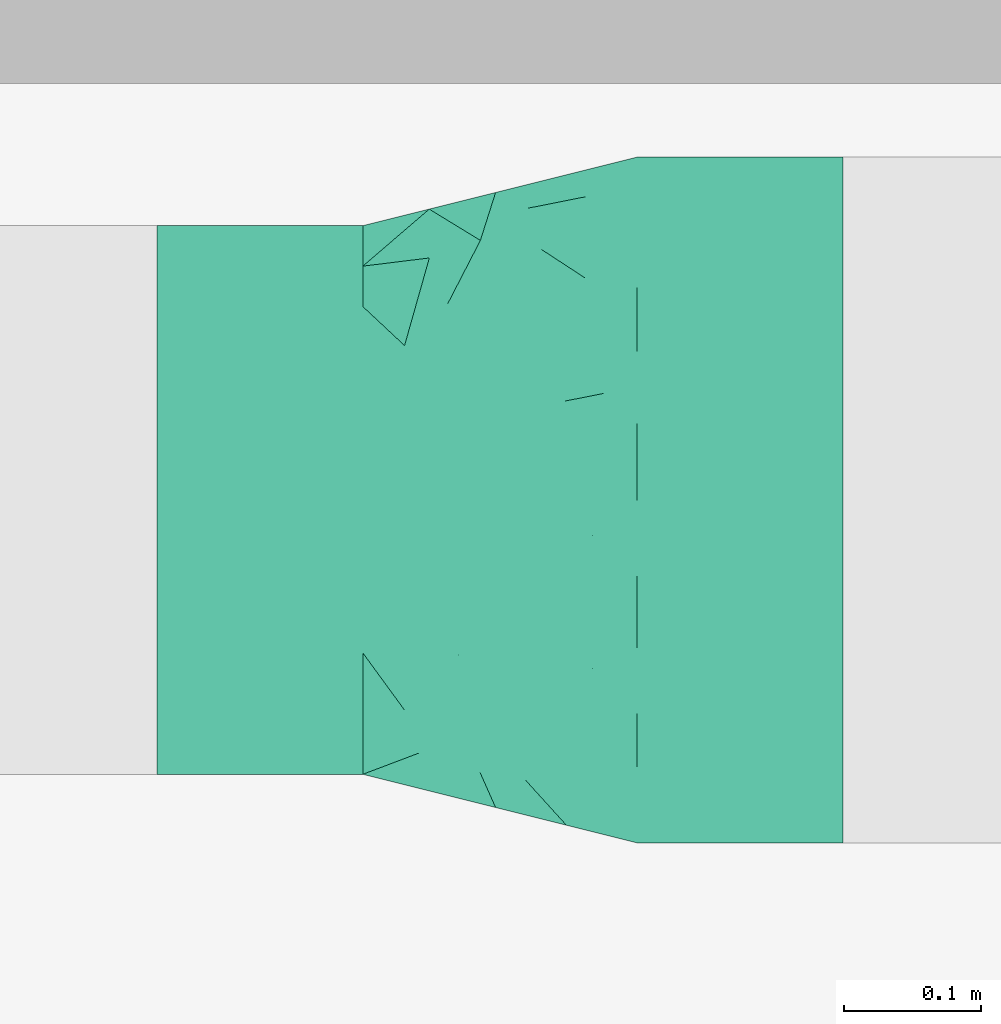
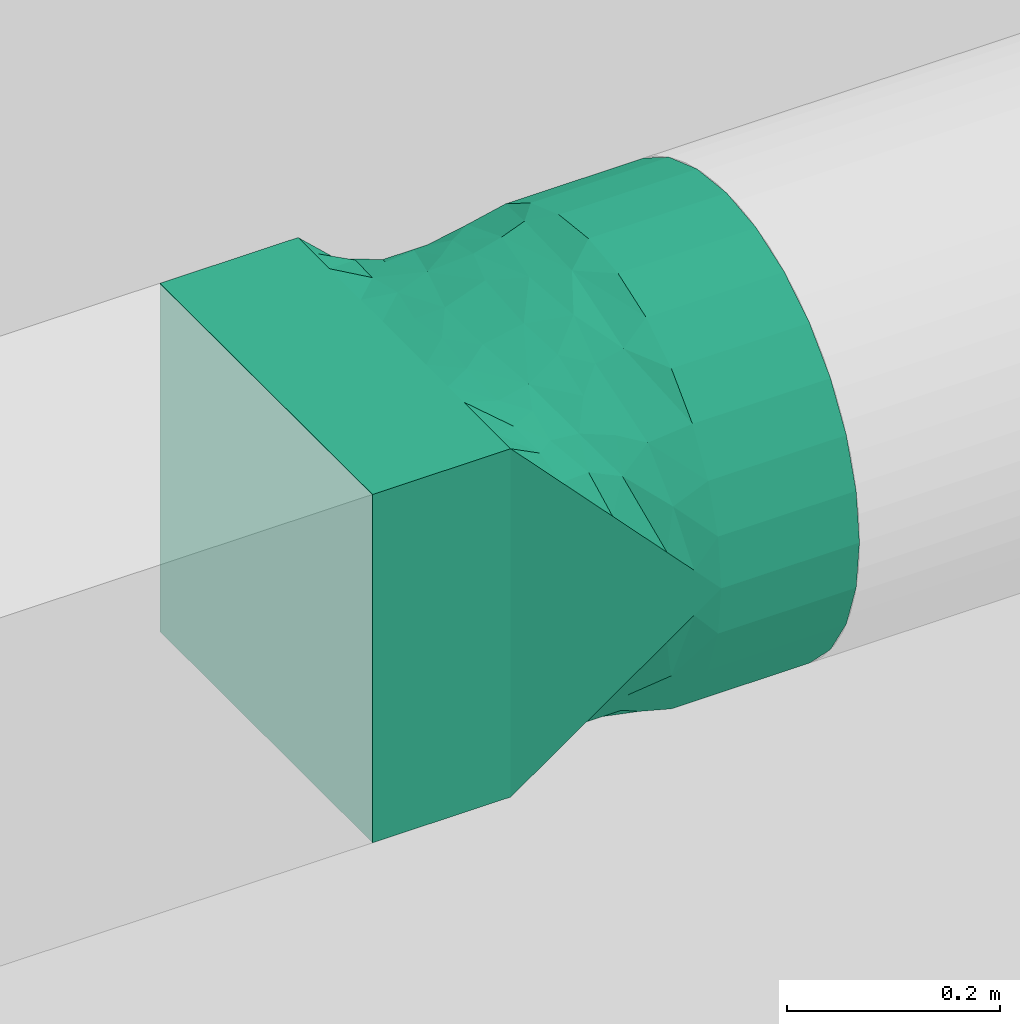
# One storey, part 22 of 31: 1 flow fitting.
"""IFC2X3 building model written with IfcOpenShell, lengths in millimetres."""

from ifc_helpers import new_model, entity, si_unit, converted_unit, derived_unit, direction, frame, origin, place, context, subcontext, project, spatial, faceted_brep, source, transform, mapped, material, material_list, type_object, type_shapes, element, save


model = new_model("IFC2X3")

# Units and contexts
model_context = context("Model", 3, precision=0.01, world=origin(), true_north=direction((6.123031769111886e-17, 1.0)))
body_context = subcontext(model_context, "Body", "Model", "MODEL_VIEW")
ifc_project = project(units=[si_unit("LENGTHUNIT", "METRE", prefix="MILLI"), si_unit("AREAUNIT", "SQUARE_METRE"), si_unit("VOLUMEUNIT", "CUBIC_METRE"), converted_unit("PLANEANGLEUNIT", "DEGREE", entity("IfcRatioMeasure", 0.017453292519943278), si_unit("PLANEANGLEUNIT", "RADIAN"), dimensions=[0, 0, 0, 0, 0, 0, 0]), si_unit("MASSUNIT", "GRAM", prefix="KILO"), derived_unit("MASSDENSITYUNIT", [(si_unit("MASSUNIT", "GRAM", prefix="KILO"), 1), (si_unit("LENGTHUNIT", "METRE"), -3)]), derived_unit("MOMENTOFINERTIAUNIT", [(si_unit("LENGTHUNIT", "METRE"), 4)]), si_unit("TIMEUNIT", "SECOND"), si_unit("FREQUENCYUNIT", "HERTZ"), si_unit("THERMODYNAMICTEMPERATUREUNIT", "DEGREE_CELSIUS"), derived_unit("THERMALTRANSMITTANCEUNIT", [(si_unit("MASSUNIT", "GRAM", prefix="KILO"), 1), (si_unit("THERMODYNAMICTEMPERATUREUNIT", "KELVIN"), -1), (si_unit("TIMEUNIT", "SECOND"), -3)]), derived_unit("VOLUMETRICFLOWRATEUNIT", [(si_unit("LENGTHUNIT", "METRE"), 3), (si_unit("TIMEUNIT", "SECOND"), -1)]), derived_unit("MASSFLOWRATEUNIT", [(si_unit("MASSUNIT", "GRAM", prefix="KILO"), 1), (si_unit("TIMEUNIT", "SECOND"), -1)]), derived_unit("ROTATIONALFREQUENCYUNIT", [(si_unit("TIMEUNIT", "SECOND"), -1)]), si_unit("ELECTRICCURRENTUNIT", "AMPERE"), si_unit("ELECTRICVOLTAGEUNIT", "VOLT"), si_unit("POWERUNIT", "WATT"), si_unit("FORCEUNIT", "NEWTON", prefix="KILO"), si_unit("ILLUMINANCEUNIT", "LUX"), si_unit("LUMINOUSFLUXUNIT", "LUMEN"), si_unit("LUMINOUSINTENSITYUNIT", "CANDELA"), derived_unit("USERDEFINED", [(si_unit("MASSUNIT", "GRAM", prefix="KILO"), -1), (si_unit("LENGTHUNIT", "METRE"), -2), (si_unit("TIMEUNIT", "SECOND"), 3), (si_unit("LUMINOUSFLUXUNIT", "LUMEN"), 1)]), derived_unit("SOUNDPOWERUNIT", [(si_unit("MASSUNIT", "GRAM", prefix="KILO"), 1), (si_unit("LENGTHUNIT", "METRE"), 2), (si_unit("TIMEUNIT", "SECOND"), -3)]), derived_unit("SOUNDPRESSUREUNIT", [(si_unit("MASSUNIT", "GRAM", prefix="KILO"), 1), (si_unit("LENGTHUNIT", "METRE"), -1), (si_unit("TIMEUNIT", "SECOND"), -2)]), derived_unit("LINEARVELOCITYUNIT", [(si_unit("LENGTHUNIT", "METRE"), 1), (si_unit("TIMEUNIT", "SECOND"), -1)]), si_unit("PRESSUREUNIT", "PASCAL"), derived_unit("USERDEFINED", [(si_unit("LENGTHUNIT", "METRE"), -2), (si_unit("MASSUNIT", "GRAM", prefix="KILO"), 1), (si_unit("TIMEUNIT", "SECOND"), -2)]), derived_unit("LINEARFORCEUNIT", [(si_unit("MASSUNIT", "GRAM", prefix="KILO"), 1), (si_unit("LENGTHUNIT", "METRE"), 1), (si_unit("TIMEUNIT", "SECOND"), -2), (si_unit("LENGTHUNIT", "METRE"), -1)]), derived_unit("PLANARFORCEUNIT", [(si_unit("MASSUNIT", "GRAM", prefix="KILO"), 1), (si_unit("LENGTHUNIT", "METRE"), 1), (si_unit("TIMEUNIT", "SECOND"), -2), (si_unit("LENGTHUNIT", "METRE"), -2)])], contexts=[model_context])

# Site, building, storey
site_placement = place(None, origin())
site = spatial("IfcSite", under=ifc_project, at=site_placement, Name="Default", CompositionType="ELEMENT")
building_placement = place(site_placement, origin())
building = spatial("IfcBuilding", under=site, at=building_placement, CompositionType="ELEMENT")
storey_placement = place(building_placement, frame((0.0, 0.0, 3880.0)))
storey = spatial("IfcBuildingStorey", under=building, at=storey_placement, Name="Niveau 1", CompositionType="ELEMENT", Elevation=3880.0)

# Flow fitting
ifc_material = material(Name="<Unnamed>")
ifc_material_list_1 = material_list([ifc_material, ifc_material, ifc_material])
ifc_material_list_2 = material_list([ifc_material, ifc_material, ifc_material])
duct_fitting_type = type_object("IfcDuctFittingType", Name="Gaine RE RU - Joint coulissant:Standard", PredefinedType="NOTDEFINED", material=ifc_material_list_2)
shared_shape = source(origin(), body_context, "Body", "Brep", [
    faceted_brep([(500.0, 108.47093477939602, -225.2422169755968), (500.0, 155.87245046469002, -195.4578706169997), (500.0, 195.45787061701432, -155.87245046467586), (500.0, 225.2422169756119, -108.47093477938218), (500.0, 243.73197804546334, -55.63023348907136), (500.0, 250.0, 0.0), (500.0, 243.73197804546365, 55.630233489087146), (500.0, 225.24221697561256, 108.47093477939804), (500.0, 195.4578706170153, 155.87245046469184), (500.0, 155.87245046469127, 195.45787061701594), (500.0, 108.47093477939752, 225.24221697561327), (500.0, 55.63023348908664, 243.73197804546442), (500.0, 0.0, 250.0), (500.0, -55.63023348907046, 243.73197804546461), (500.0, -108.47093477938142, 225.2422169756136), (500.0, -155.87245046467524, 195.4578706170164), (500.0, -195.45787061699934, 155.87245046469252), (500.0, -225.2422169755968, 108.47093477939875), (500.0, -243.73197804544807, 55.630233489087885), (500.0, -250.0, 0.0), (500.0, -243.73197804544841, -55.630233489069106), (500.0, -225.24221697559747, -108.4709347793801), (500.0, -195.4578706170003, -155.87245046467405), (500.0, -155.87245046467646, -195.45787061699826), (500.0, -108.47093477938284, -225.2422169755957), (500.0, -55.630233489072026, -243.73197804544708), (500.0, 0.0, -250.0), (500.0, 55.630233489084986, -243.73197804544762), (350.0, 55.63023348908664, 243.73197804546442), (350.0, 108.47093477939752, 225.24221697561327), (350.0, 155.87245046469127, 195.45787061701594), (350.0, 195.4578706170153, 155.87245046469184), (350.0, 225.24221697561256, 108.47093477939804), (350.0, 243.73197804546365, 55.630233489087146), (350.0, 250.0, 0.0), (350.0, 243.73197804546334, -55.63023348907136), (350.0, 225.2422169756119, -108.47093477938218), (350.0, 195.45787061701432, -155.87245046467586), (350.0, 155.87245046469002, -195.4578706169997), (350.0, 108.47093477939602, -225.2422169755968), (350.0, 55.630233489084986, -243.73197804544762), (350.0, 0.0, -250.0), (350.0, -55.630233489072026, -243.73197804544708), (350.0, -108.47093477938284, -225.2422169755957), (350.0, -155.87245046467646, -195.45787061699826), (350.0, -195.4578706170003, -155.87245046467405), (350.0, -225.24221697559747, -108.4709347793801), (350.0, -243.73197804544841, -55.630233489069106), (350.0, -250.0, 0.0), (350.0, -243.73197804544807, 55.630233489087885), (350.0, -225.2422169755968, 108.47093477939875), (350.0, -195.45787061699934, 155.87245046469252), (350.0, -155.87245046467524, 195.4578706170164), (350.0, -108.47093477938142, 225.2422169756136), (350.0, -55.63023348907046, 243.73197804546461), (350.0, 0.0, 250.0)], [[[0, 1, 2, 3, 4, 5, 6, 7, 8, 9, 10, 11, 12, 13, 14, 15, 16, 17, 18, 19, 20, 21, 22, 23, 24, 25, 26, 27]], [[28, 29, 30, 31, 32, 33, 34, 35, 36, 37, 38, 39, 40, 41, 42, 43, 44, 45, 46, 47, 48, 49, 50, 51, 52, 53, 54, 55]], [[20, 47, 46, 21]], [[45, 22, 21, 46]], [[43, 42, 25, 24]], [[23, 44, 43, 24]], [[22, 45, 44, 23]], [[25, 42, 41, 26]], [[48, 47, 20, 19]], [[27, 40, 39, 0]], [[38, 1, 0, 39]], [[36, 35, 4, 3]], [[2, 37, 36, 3]], [[1, 38, 37, 2]], [[4, 35, 34, 5]], [[26, 41, 40, 27]], [[33, 6, 5, 34]], [[32, 7, 6, 33]], [[29, 28, 11, 10]], [[31, 8, 7, 32]], [[28, 55, 12, 11]], [[9, 30, 29, 10]], [[9, 8, 31, 30]], [[13, 54, 53, 14]], [[52, 15, 14, 53]], [[50, 49, 18, 17]], [[16, 51, 50, 17]], [[15, 52, 51, 16]], [[18, 49, 48, 19]], [[12, 55, 54, 13]]]),
    faceted_brep([(150.0, -200.0, 200.0), (150.0, -200.0, -200.0), (150.0, 200.0, -200.0), (150.0, 200.0, 200.0), (0.0, -200.0, 200.0), (0.0, 200.0, 200.0), (0.0, 200.0, -200.0), (0.0, -200.0, -200.0)], [[[0, 1, 2, 3]], [[4, 5, 6, 7]], [[1, 0, 4, 7]], [[2, 1, 7, 6]], [[3, 2, 6, 5]], [[0, 3, 5, 4]]]),
    faceted_brep([(350.0, -55.63023348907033, 243.73197804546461), (350.0, -108.4709347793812, 225.24221697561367), (350.0, -155.87245046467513, 195.45787061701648), (350.0, -195.45787061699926, 155.87245046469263), (350.0, -225.24221697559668, 108.47093477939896), (350.0, -243.73197804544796, 55.630233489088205), (350.0, -250.0, 0.0), (350.0, -243.7319780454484, -55.63023348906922), (350.0, -225.24221697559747, -108.4709347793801), (350.0, -195.4578706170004, -155.872450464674), (350.0, -155.87245046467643, -195.45787061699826), (350.0, -108.47093477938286, -225.2422169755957), (350.0, -55.63023348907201, -243.73197804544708), (350.0, 0.0, -250.0), (350.0, 55.63023348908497, -243.73197804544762), (350.0, 108.4709347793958, -225.2422169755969), (350.0, 155.87245046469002, -195.4578706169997), (350.0, 195.45787061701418, -155.87245046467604), (350.0, 225.2422169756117, -108.47093477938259), (350.0, 243.73197804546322, -55.63023348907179), (350.0, 250.0, 0.0), (350.0, 243.73197804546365, 55.63023348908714), (350.0, 225.24221697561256, 108.47093477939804), (350.0, 195.4578706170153, 155.87245046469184), (350.0, 155.87245046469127, 195.45787061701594), (350.0, 108.47093477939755, 225.24221697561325), (350.0, 55.630233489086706, 243.73197804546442), (350.0, 0.0, 250.0), (150.0, 200.0, -200.0), (150.0, 170.51167180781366, -200.0), (150.0, 141.02334361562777, -200.0), (150.0, 111.53501542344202, -200.0), (150.0, 82.0466872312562, -200.0), (150.0, 41.02334361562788, -200.0), (150.0, 0.0, -200.0), (150.0, -41.02334361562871, -200.0), (150.0, -82.04668723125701, -200.0), (150.0, -111.53501542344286, -200.0), (150.0, -141.02334361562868, -200.0), (150.0, -170.51167180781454, -200.0), (150.0, -200.0, -200.0), (150.0, -200.0, 200.0), (150.0, -170.51167180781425, 200.0), (150.0, -141.02334361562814, 200.0), (150.0, -111.53501542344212, 200.0), (150.0, -82.04668723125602, 200.0), (150.0, -41.023343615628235, 200.0), (150.0, 0.0, 200.0), (150.0, 41.023343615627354, 200.0), (150.0, 82.04668723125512, 200.0), (150.0, 111.5350154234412, 200.0), (150.0, 141.02334361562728, 200.0), (150.0, 170.51167180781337, 200.0), (150.0, 200.0, 200.0), (198.39542321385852, -212.09885580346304, -151.60457678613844), (246.79084642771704, -224.1977116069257, -103.2091535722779), (272.59313482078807, -230.64828370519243, -77.40686517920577), (298.39542321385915, -237.09885580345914, -51.604576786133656), (324.19771160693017, -243.54942790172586, -25.80228839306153), (324.1977133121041, -243.54942832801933, 25.802286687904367), (298.39542662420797, -237.09885665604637, 51.60457337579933), (272.59313993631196, -230.64828498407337, 77.4068600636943), (246.79085324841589, -224.1977133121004, 103.20914675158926), (198.39542662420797, -212.09885665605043, 151.60457337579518), (325.32066484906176, -77.66935260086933, -231.53215377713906), (311.7550449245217, -162.09509403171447, -181.21756220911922), (317.2616800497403, 25.74767085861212, -240.5007859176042), (317.2616798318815, 122.92798763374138, -209.76895619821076), (268.7987575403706, 204.4760922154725, -129.53456212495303), (246.79085324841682, 224.19771331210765, -103.20914675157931), (272.59313993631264, 230.64828498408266, -77.40686006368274), (298.3954266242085, 237.0988566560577, -51.60457337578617), (312.08638660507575, -221.02757136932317, -104.830776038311), (286.5427582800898, 122.66894114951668, -203.217756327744), (303.365505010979, 192.30217795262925, -148.62869990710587), (177.63408575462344, 69.08463172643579, -202.95230683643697), (179.7230577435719, 19.232226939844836, -207.1064335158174), (221.86086445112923, -81.23513568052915, -207.65973343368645), (248.13481199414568, -99.31547274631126, -206.6200827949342), (247.50688354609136, -149.85371386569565, -181.13364768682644), (311.2965707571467, 226.12575085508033, -93.07724196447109), (292.7046514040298, 71.1930375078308, -225.6660213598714), (205.2681744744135, 51.56283219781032, -210.26206442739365), (249.08053846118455, 52.831541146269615, -219.83117931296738), (203.164782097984, -15.66481520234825, -212.9722605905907), (282.53465393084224, 5.522138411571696, -233.07561707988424), (209.74849066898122, 170.6177465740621, -170.89182263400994), (180.08898459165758, 152.79063879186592, -186.8947976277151), (190.97393797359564, 184.5111080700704, -171.18609594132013), (235.69769130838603, -189.28706098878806, -151.19430781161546), (270.0596478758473, -212.71054385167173, -116.93051758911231), (198.47841727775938, -176.4928104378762, -171.41656591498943), (265.8121220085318, -70.58577230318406, -219.59356819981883), (249.99999560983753, -21.13838601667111, -224.21402743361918), (324.1977133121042, 243.54942832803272, -25.802286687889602), (273.28145300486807, -123.37885553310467, -200.27383495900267), (297.6562541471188, -72.17621140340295, -226.55659696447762), (280.2284356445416, -182.68762502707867, -156.37867813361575), (275.8137567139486, 179.55352421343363, -159.1687694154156), (241.6561066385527, 169.71979458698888, -166.97598394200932), (235.41797336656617, 198.615855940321, -142.2203114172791), (208.51283333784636, 139.70121236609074, -186.38180095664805), (262.06143462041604, 143.01854330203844, -186.9878092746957), (259.17079967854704, 99.08521746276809, -208.78556737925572), (219.56069425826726, 113.1139813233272, -197.32654278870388), (211.74998516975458, -142.879870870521, -184.78445417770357), (183.34581457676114, 119.31929201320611, -194.66937083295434), (183.6891649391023, -70.73884801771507, -203.59920888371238), (174.01752459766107, -22.864044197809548, -205.6156493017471), (180.4078403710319, -112.61192370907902, -196.28123230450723), (198.3954266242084, 212.09885665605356, -151.60457337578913), (198.3954232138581, 212.09885580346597, 151.60457678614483), (246.79084642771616, 224.1977116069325, 103.20915357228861), (272.59313482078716, 230.64828370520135, 77.4068651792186), (298.3954232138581, 237.09885580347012, 51.604576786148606), (324.1977116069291, 243.54942790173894, 25.802288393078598), (325.32066484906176, 77.66935260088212, 231.53215377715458), (311.7550449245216, 162.09509403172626, 181.21756220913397), (317.2616800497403, -25.747670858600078, 240.50078591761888), (317.2616798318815, -122.92798763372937, 209.768956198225), (268.79875754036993, -204.47609221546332, 129.5345621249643), (312.0863866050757, 221.02757136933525, 104.83077603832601), (286.54275828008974, -122.6689411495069, 203.21775632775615), (303.36550501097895, -192.30217795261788, 148.6286999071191), (177.6340857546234, -69.08463172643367, 202.9523068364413), (179.72305774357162, -19.232226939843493, 207.10643351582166), (221.86086445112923, 81.23513568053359, 207.65973343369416), (248.13481199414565, 99.31547274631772, 206.620082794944), (247.50688354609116, 149.85371386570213, 181.13364768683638), (311.2965707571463, -226.12575085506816, 93.07724196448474), (292.70465140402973, -71.19303750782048, 225.6660213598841), (205.26817447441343, -51.5628321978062, 210.2620644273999), (249.08053846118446, -52.831541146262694, 219.83117931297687), (203.16478209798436, 15.664815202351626, 212.97226059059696), (282.53465393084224, -5.522138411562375, 233.07561707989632), (209.74849066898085, -170.61774657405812, 170.8918226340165), (180.08898459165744, -152.79063879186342, 186.8947976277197), (190.97393797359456, -184.51110807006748, 171.18609594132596), (235.6976913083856, 189.2870609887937, 151.19430781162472), (270.059647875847, 212.7105438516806, 116.93051758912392), (198.47841727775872, 176.49281043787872, 171.41656591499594), (265.81212200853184, 70.58577230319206, 219.59356819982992), (249.99999560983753, 21.138386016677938, 224.21402743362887), (273.28145300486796, 123.37885553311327, 200.27383495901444), (297.65625414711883, 72.1762114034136, 226.5565969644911), (280.22843564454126, 182.68762502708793, 156.37867813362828), (275.8137567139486, -179.55352421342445, 159.1687694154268), (241.6561066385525, -169.71979458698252, 166.975983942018), (235.41797336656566, -198.61585594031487, 142.22031141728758), (208.51283333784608, -139.70121236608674, 186.3818009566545), (262.0614346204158, -143.01854330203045, 186.98780927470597), (259.17079967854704, -99.08521746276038, 208.78556737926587), (219.56069425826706, -113.11398132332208, 197.32654278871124), (211.74998516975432, 142.87987087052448, 184.7844541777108), (183.34581457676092, -119.31929201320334, 194.66937083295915), (183.68916493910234, 70.73884801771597, 203.59920888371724), (174.0175245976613, 22.864044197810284, 205.61564930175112), (180.4078403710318, 112.61192370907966, 196.28123230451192)], [[[0, 1, 2, 3, 4, 5, 6, 7, 8, 9, 10, 11, 12, 13, 14, 15, 16, 17, 18, 19, 20, 21, 22, 23, 24, 25, 26, 27]], [[28, 29, 30, 31, 32, 33, 34, 35, 36, 37, 38, 39, 40, 41, 42, 43, 44, 45, 46, 47, 48, 49, 50, 51, 52, 53]], [[41, 40, 54, 55, 56, 57, 58, 6, 59, 60, 61, 62, 63]], [[64, 10, 65]], [[66, 67, 15]], [[9, 65, 10]], [[68, 69, 70, 71]], [[72, 65, 9]], [[73, 74, 67]], [[33, 75, 76]], [[77, 78, 79]], [[19, 18, 80]], [[66, 81, 67]], [[82, 83, 84]], [[17, 16, 67]], [[9, 8, 72]], [[81, 85, 83]], [[12, 11, 64]], [[86, 87, 88]], [[66, 13, 64]], [[89, 90, 55]], [[54, 91, 89]], [[14, 66, 15]], [[92, 77, 93]], [[58, 7, 6]], [[16, 15, 67]], [[17, 74, 18]], [[66, 14, 13]], [[94, 80, 71]], [[68, 71, 80]], [[66, 85, 81]], [[7, 58, 72]], [[77, 84, 93]], [[95, 96, 65]], [[72, 8, 7]], [[73, 67, 81]], [[95, 65, 97]], [[65, 96, 64]], [[90, 72, 57]], [[65, 72, 97]], [[18, 74, 80]], [[94, 20, 19]], [[17, 67, 74]], [[64, 13, 12]], [[96, 92, 85]], [[19, 80, 94]], [[80, 74, 68]], [[74, 98, 68]], [[68, 99, 100]], [[87, 86, 101]], [[99, 68, 98]], [[102, 103, 104]], [[64, 11, 10]], [[66, 64, 96]], [[95, 97, 79]], [[92, 96, 95]], [[89, 105, 79]], [[54, 39, 91]], [[96, 85, 66]], [[93, 84, 83]], [[75, 106, 104]], [[102, 73, 103]], [[93, 83, 85]], [[104, 103, 83]], [[103, 81, 83]], [[73, 102, 98]], [[81, 103, 73]], [[104, 83, 82]], [[104, 82, 75]], [[104, 101, 99]], [[97, 90, 89]], [[79, 105, 77]], [[107, 84, 77]], [[35, 34, 108]], [[97, 89, 79]], [[91, 105, 89]], [[89, 55, 54]], [[107, 36, 35]], [[107, 109, 36]], [[84, 108, 76]], [[31, 87, 106]], [[109, 91, 38]], [[72, 90, 97]], [[90, 57, 56, 55]], [[109, 107, 77]], [[107, 35, 108]], [[109, 77, 105]], [[91, 109, 105]], [[109, 38, 37, 36]], [[76, 108, 34]], [[107, 108, 84]], [[33, 32, 75]], [[84, 76, 82]], [[76, 34, 33]], [[75, 32, 106]], [[76, 75, 82]], [[106, 32, 31]], [[101, 104, 106]], [[88, 28, 110]], [[69, 100, 110]], [[58, 57, 72]], [[73, 98, 74]], [[99, 98, 102]], [[104, 99, 102]], [[99, 86, 100]], [[100, 86, 88]], [[68, 100, 69]], [[78, 92, 95]], [[85, 92, 93]], [[79, 78, 95]], [[77, 92, 78]], [[39, 54, 40]], [[39, 38, 91]], [[87, 31, 30, 29]], [[28, 88, 29]], [[29, 88, 87]], [[100, 88, 110]], [[87, 101, 106]], [[99, 101, 86]], [[94, 71, 70, 69, 110, 28, 53, 111, 112, 113, 114, 115, 20]], [[116, 24, 117]], [[118, 119, 1]], [[23, 117, 24]], [[120, 62, 61, 60]], [[121, 117, 23]], [[122, 123, 119]], [[46, 124, 125]], [[126, 127, 128]], [[5, 4, 129]], [[118, 130, 119]], [[131, 132, 133]], [[3, 2, 119]], [[23, 22, 121]], [[130, 134, 132]], [[26, 25, 116]], [[135, 136, 137]], [[118, 27, 116]], [[138, 139, 112]], [[111, 140, 138]], [[0, 118, 1]], [[141, 126, 142]], [[115, 21, 20]], [[2, 1, 119]], [[3, 123, 4]], [[118, 0, 27]], [[59, 129, 60]], [[120, 60, 129]], [[118, 134, 130]], [[21, 115, 121]], [[126, 133, 142]], [[143, 144, 117]], [[121, 22, 21]], [[122, 119, 130]], [[143, 117, 145]], [[117, 144, 116]], [[139, 121, 114]], [[117, 121, 145]], [[4, 123, 129]], [[59, 6, 5]], [[3, 119, 123]], [[116, 27, 26]], [[144, 141, 134]], [[5, 129, 59]], [[129, 123, 120]], [[123, 146, 120]], [[120, 147, 148]], [[136, 135, 149]], [[147, 120, 146]], [[150, 151, 152]], [[116, 25, 24]], [[118, 116, 144]], [[143, 145, 128]], [[141, 144, 143]], [[138, 153, 128]], [[111, 52, 140]], [[144, 134, 118]], [[142, 133, 132]], [[124, 154, 152]], [[150, 122, 151]], [[142, 132, 134]], [[152, 151, 132]], [[151, 130, 132]], [[122, 150, 146]], [[130, 151, 122]], [[152, 132, 131]], [[131, 125, 124]], [[152, 149, 147]], [[145, 139, 138]], [[128, 153, 126]], [[155, 133, 126]], [[48, 47, 156]], [[145, 138, 128]], [[140, 153, 138]], [[138, 112, 111]], [[155, 49, 48]], [[155, 157, 49]], [[133, 156, 125]], [[44, 136, 154]], [[157, 140, 51]], [[121, 139, 145]], [[139, 114, 113, 112]], [[157, 155, 126]], [[155, 48, 156]], [[157, 126, 153]], [[140, 157, 153]], [[157, 51, 50, 49]], [[125, 156, 47]], [[155, 156, 133]], [[45, 124, 46]], [[133, 125, 131]], [[125, 47, 46]], [[154, 124, 45]], [[152, 131, 124]], [[154, 45, 44]], [[149, 152, 154]], [[137, 41, 63]], [[62, 148, 63]], [[115, 114, 121]], [[122, 146, 123]], [[147, 146, 150]], [[152, 147, 150]], [[147, 135, 148]], [[148, 135, 137]], [[120, 148, 62]], [[127, 141, 143]], [[134, 141, 142]], [[128, 127, 143]], [[126, 141, 127]], [[52, 111, 53]], [[52, 51, 140]], [[136, 44, 43, 42]], [[41, 137, 42]], [[42, 137, 136]], [[148, 137, 63]], [[136, 149, 154]], [[147, 149, 135]]]),
])
type_shapes(duct_fitting_type, [shared_shape])
flow_fitting_placement = place(storey_placement, frame((-4335.742523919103, -14573.552532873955, 3150.0)))
element("IfcFlowFitting", 1, at=flow_fitting_placement, inside=storey, type_object=duct_fitting_type, material=ifc_material_list_1, Name="Gaine RE RU - Joint coulissant:Standard", ObjectType="Gaine RE RU - Joint coulissant:Standard", context=body_context, shape_type="MappedRepresentation", body=[
    mapped(shared_shape, transform((0.0, 0.0, 0.0), scale=1.0)),
])

save(model, "model.ifc")
